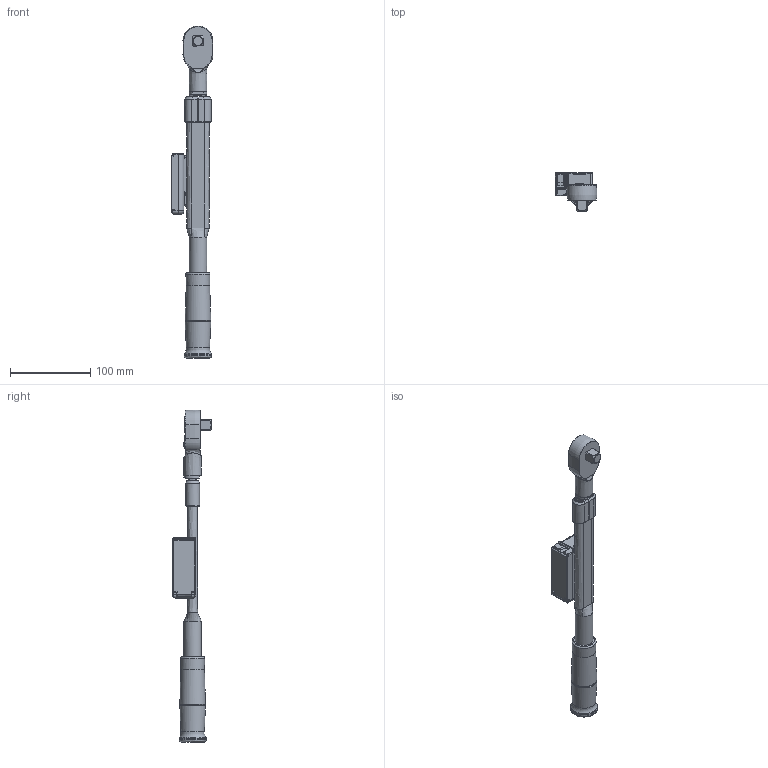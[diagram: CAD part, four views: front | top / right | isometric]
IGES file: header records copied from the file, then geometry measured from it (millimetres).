
Global section: file name: CSPFDD140N3X15D+QH15D; native system: Autodesk Inventor 2016; preprocessor: unknown; author: Q600; date: 20160428.185121; units: millimetre
Bounding box: 52.15 x 48.6 x 414.07 mm (x, y, z)
Surface area: 52682.7 mm2 (no closed solid volume)
Topology: 0 solids, 0 shells, 178 faces, 1276 edges, 1268 vertices
Faces by surface type: bspline 90, revolution 88
